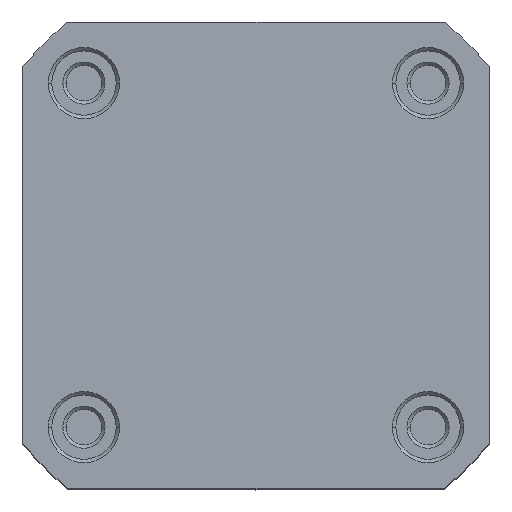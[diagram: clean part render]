
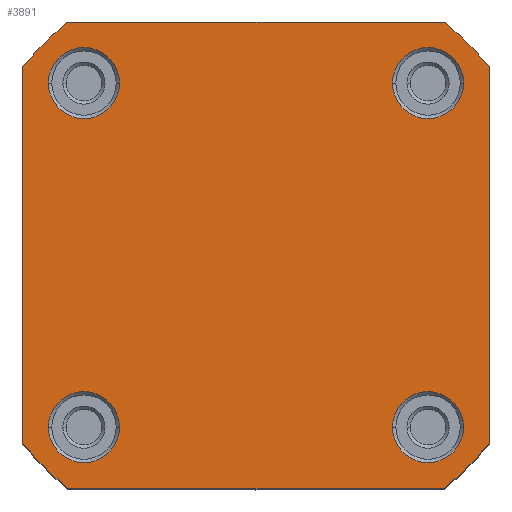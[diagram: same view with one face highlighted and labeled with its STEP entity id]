
A CAD part, top view. The second image highlights one B-rep face of the part: STEP entity #3891.
In plain terms, the highlighted planar face has unit normal (0, 0, 1).
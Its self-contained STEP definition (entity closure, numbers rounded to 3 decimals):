
#28 = DIRECTION ( 'NONE',  ( 0., 0., 1. ) ) ;
#47 = LINE ( 'NONE', #2766, #95 ) ;
#74 = DIRECTION ( 'NONE',  ( 1., 0., 0. ) ) ;
#93 = CIRCLE ( 'NONE', #2621, 27. ) ;
#95 = VECTOR ( 'NONE', #3435, 1000. ) ;
#187 = DIRECTION ( 'NONE',  ( 0., 0., -1. ) ) ;
#218 = CIRCLE ( 'NONE', #370, 3.2 ) ;
#221 = ORIENTED_EDGE ( 'NONE', *, *, #331, .T. ) ;
#287 = DIRECTION ( 'NONE',  ( 0., 0., -1. ) ) ;
#331 = EDGE_CURVE ( 'NONE', #1969, #4166, #47, .T. ) ;
#366 = VERTEX_POINT ( 'NONE', #2141 ) ;
#370 = AXIS2_PLACEMENT_3D ( 'NONE', #429, #462, #74 ) ;
#417 = FACE_BOUND ( 'NONE', #1628, .T. ) ;
#429 = CARTESIAN_POINT ( 'NONE',  ( 15.5, 15.5, 97.3 ) ) ;
#461 = CARTESIAN_POINT ( 'NONE',  ( 16.971, 21., 97.3 ) ) ;
#462 = DIRECTION ( 'NONE',  ( 0., 0., -1. ) ) ;
#493 = AXIS2_PLACEMENT_3D ( 'NONE', #1673, #287, #2647 ) ;
#518 = LINE ( 'NONE', #461, #3048 ) ;
#524 = FACE_OUTER_BOUND ( 'NONE', #3098, .T. ) ;
#561 = VERTEX_POINT ( 'NONE', #1376 ) ;
#592 = CARTESIAN_POINT ( 'NONE',  ( 12.3, -15.5, 97.3 ) ) ;
#602 = CIRCLE ( 'NONE', #2726, 27. ) ;
#610 = AXIS2_PLACEMENT_3D ( 'NONE', #1875, #3504, #3179 ) ;
#613 = EDGE_CURVE ( 'NONE', #4167, #1510, #1006, .T. ) ;
#648 = CARTESIAN_POINT ( 'NONE',  ( -12.3, 15.5, 97.3 ) ) ;
#675 = DIRECTION ( 'NONE',  ( 0., 0., -1. ) ) ;
#702 = CARTESIAN_POINT ( 'NONE',  ( 12.3, 15.5, 97.3 ) ) ;
#704 = CIRCLE ( 'NONE', #3185, 3.2 ) ;
#719 = EDGE_CURVE ( 'NONE', #3539, #4167, #3249, .T. ) ;
#743 = CARTESIAN_POINT ( 'NONE',  ( 0., 0., 97.3 ) ) ;
#814 = CARTESIAN_POINT ( 'NONE',  ( -15.5, 15.5, 97.3 ) ) ;
#831 = DIRECTION ( 'NONE',  ( 1., 0., 0. ) ) ;
#900 = CARTESIAN_POINT ( 'NONE',  ( 18.7, 15.5, 97.3 ) ) ;
#965 = CIRCLE ( 'NONE', #1878, 3.2 ) ;
#1006 = CIRCLE ( 'NONE', #3169, 27. ) ;
#1026 = ORIENTED_EDGE ( 'NONE', *, *, #1306, .T. ) ;
#1029 = DIRECTION ( 'NONE',  ( 1., 0., 0. ) ) ;
#1090 = VERTEX_POINT ( 'NONE', #2862 ) ;
#1181 = VERTEX_POINT ( 'NONE', #2938 ) ;
#1306 = EDGE_CURVE ( 'NONE', #561, #2165, #704, .T. ) ;
#1370 = CARTESIAN_POINT ( 'NONE',  ( 15.5, -15.5, 97.3 ) ) ;
#1376 = CARTESIAN_POINT ( 'NONE',  ( -18.7, 15.5, 97.3 ) ) ;
#1414 = DIRECTION ( 'NONE',  ( 1., 0., 0. ) ) ;
#1460 = CIRCLE ( 'NONE', #3402, 27. ) ;
#1510 = VERTEX_POINT ( 'NONE', #2795 ) ;
#1518 = ORIENTED_EDGE ( 'NONE', *, *, #3646, .T. ) ;
#1597 = AXIS2_PLACEMENT_3D ( 'NONE', #1370, #2675, #4063 ) ;
#1628 = EDGE_LOOP ( 'NONE', ( #1814, #3180 ) ) ;
#1635 = CARTESIAN_POINT ( 'NONE',  ( 0., 0., 97.3 ) ) ;
#1650 = VECTOR ( 'NONE', #2327, 1000. ) ;
#1673 = CARTESIAN_POINT ( 'NONE',  ( 15.5, 15.5, 97.3 ) ) ;
#1716 = DIRECTION ( 'NONE',  ( 1., 0., 0. ) ) ;
#1805 = ORIENTED_EDGE ( 'NONE', *, *, #613, .T. ) ;
#1814 = ORIENTED_EDGE ( 'NONE', *, *, #1909, .T. ) ;
#1827 = EDGE_CURVE ( 'NONE', #3269, #2326, #3569, .T. ) ;
#1862 = DIRECTION ( 'NONE',  ( 1., 0., 0. ) ) ;
#1864 = CIRCLE ( 'NONE', #1597, 3.2 ) ;
#1875 = CARTESIAN_POINT ( 'NONE',  ( 15.5, -15.5, 97.3 ) ) ;
#1878 = AXIS2_PLACEMENT_3D ( 'NONE', #3845, #187, #1862 ) ;
#1909 = EDGE_CURVE ( 'NONE', #3679, #1090, #965, .T. ) ;
#1964 = ORIENTED_EDGE ( 'NONE', *, *, #1827, .T. ) ;
#1969 = VERTEX_POINT ( 'NONE', #2264 ) ;
#2017 = CARTESIAN_POINT ( 'NONE',  ( 0., 0., 97.3 ) ) ;
#2061 = DIRECTION ( 'NONE',  ( 0., 0., 1. ) ) ;
#2139 = CARTESIAN_POINT ( 'NONE',  ( -12.3, -15.5, 97.3 ) ) ;
#2141 = CARTESIAN_POINT ( 'NONE',  ( 16.971, -21., 97.3 ) ) ;
#2165 = VERTEX_POINT ( 'NONE', #648 ) ;
#2183 = VERTEX_POINT ( 'NONE', #3391 ) ;
#2197 = CIRCLE ( 'NONE', #493, 3.2 ) ;
#2206 = EDGE_CURVE ( 'NONE', #1181, #366, #2669, .T. ) ;
#2222 = EDGE_LOOP ( 'NONE', ( #4174, #1964 ) ) ;
#2264 = CARTESIAN_POINT ( 'NONE',  ( -21., 16.971, 97.3 ) ) ;
#2321 = DIRECTION ( 'NONE',  ( 1., 0., 0. ) ) ;
#2326 = VERTEX_POINT ( 'NONE', #3087 ) ;
#2327 = DIRECTION ( 'NONE',  ( 0., 1., 0. ) ) ;
#2369 = CARTESIAN_POINT ( 'NONE',  ( 0., 0., 97.3 ) ) ;
#2380 = DIRECTION ( 'NONE',  ( 1., 0., 0. ) ) ;
#2443 = EDGE_LOOP ( 'NONE', ( #1518, #1026 ) ) ;
#2517 = EDGE_CURVE ( 'NONE', #3081, #3396, #2197, .T. ) ;
#2530 = FACE_BOUND ( 'NONE', #2443, .T. ) ;
#2571 = EDGE_CURVE ( 'NONE', #366, #3539, #93, .T. ) ;
#2592 = CIRCLE ( 'NONE', #3511, 3.2 ) ;
#2621 = AXIS2_PLACEMENT_3D ( 'NONE', #1635, #3960, #2321 ) ;
#2640 = FACE_BOUND ( 'NONE', #2222, .T. ) ;
#2645 = CARTESIAN_POINT ( 'NONE',  ( -15.5, 15.5, 97.3 ) ) ;
#2647 = DIRECTION ( 'NONE',  ( 1., 0., 0. ) ) ;
#2669 = LINE ( 'NONE', #3060, #2875 ) ;
#2675 = DIRECTION ( 'NONE',  ( 0., 0., -1. ) ) ;
#2683 = ORIENTED_EDGE ( 'NONE', *, *, #3333, .T. ) ;
#2690 = CARTESIAN_POINT ( 'NONE',  ( 0., 0., 97.3 ) ) ;
#2720 = PLANE ( 'NONE',  #3597 ) ;
#2726 = AXIS2_PLACEMENT_3D ( 'NONE', #2017, #28, #1029 ) ;
#2766 = CARTESIAN_POINT ( 'NONE',  ( -21., 16.971, 97.3 ) ) ;
#2795 = CARTESIAN_POINT ( 'NONE',  ( 16.971, 21., 97.3 ) ) ;
#2846 = CARTESIAN_POINT ( 'NONE',  ( -21., -16.971, 97.3 ) ) ;
#2862 = CARTESIAN_POINT ( 'NONE',  ( -18.7, -15.5, 97.3 ) ) ;
#2875 = VECTOR ( 'NONE', #2380, 1000. ) ;
#2901 = ORIENTED_EDGE ( 'NONE', *, *, #2571, .T. ) ;
#2938 = CARTESIAN_POINT ( 'NONE',  ( -16.971, -21., 97.3 ) ) ;
#2949 = ORIENTED_EDGE ( 'NONE', *, *, #2206, .T. ) ;
#2991 = DIRECTION ( 'NONE',  ( 1., 0., 0. ) ) ;
#3048 = VECTOR ( 'NONE', #3131, 1000. ) ;
#3057 = CARTESIAN_POINT ( 'NONE',  ( -15.5, -15.5, 97.3 ) ) ;
#3060 = CARTESIAN_POINT ( 'NONE',  ( -16.971, -21., 97.3 ) ) ;
#3081 = VERTEX_POINT ( 'NONE', #900 ) ;
#3087 = CARTESIAN_POINT ( 'NONE',  ( 18.7, -15.5, 97.3 ) ) ;
#3093 = AXIS2_PLACEMENT_3D ( 'NONE', #814, #3133, #831 ) ;
#3098 = EDGE_LOOP ( 'NONE', ( #4212, #221, #2683, #2949, #2901, #3557, #1805, #3737 ) ) ;
#3125 = CARTESIAN_POINT ( 'NONE',  ( 21., -16.971, 97.3 ) ) ;
#3131 = DIRECTION ( 'NONE',  ( -1., 0., 0. ) ) ;
#3133 = DIRECTION ( 'NONE',  ( 0., 0., -1. ) ) ;
#3169 = AXIS2_PLACEMENT_3D ( 'NONE', #2369, #3754, #3382 ) ;
#3179 = DIRECTION ( 'NONE',  ( 1., 0., 0. ) ) ;
#3180 = ORIENTED_EDGE ( 'NONE', *, *, #3899, .T. ) ;
#3185 = AXIS2_PLACEMENT_3D ( 'NONE', #2645, #675, #2991 ) ;
#3249 = LINE ( 'NONE', #3125, #1650 ) ;
#3269 = VERTEX_POINT ( 'NONE', #592 ) ;
#3333 = EDGE_CURVE ( 'NONE', #4166, #1181, #602, .T. ) ;
#3357 = DIRECTION ( 'NONE',  ( 1., 0., 0. ) ) ;
#3378 = DIRECTION ( 'NONE',  ( 0., 0., 1. ) ) ;
#3382 = DIRECTION ( 'NONE',  ( 1., 0., 0. ) ) ;
#3391 = CARTESIAN_POINT ( 'NONE',  ( -16.971, 21., 97.3 ) ) ;
#3396 = VERTEX_POINT ( 'NONE', #702 ) ;
#3402 = AXIS2_PLACEMENT_3D ( 'NONE', #2690, #3378, #1716 ) ;
#3435 = DIRECTION ( 'NONE',  ( 0., -1., 0. ) ) ;
#3447 = EDGE_CURVE ( 'NONE', #2183, #1969, #1460, .T. ) ;
#3501 = EDGE_CURVE ( 'NONE', #3396, #3081, #218, .T. ) ;
#3504 = DIRECTION ( 'NONE',  ( 0., 0., -1. ) ) ;
#3511 = AXIS2_PLACEMENT_3D ( 'NONE', #3057, #3748, #3357 ) ;
#3539 = VERTEX_POINT ( 'NONE', #3714 ) ;
#3557 = ORIENTED_EDGE ( 'NONE', *, *, #719, .T. ) ;
#3569 = CIRCLE ( 'NONE', #610, 3.2 ) ;
#3597 = AXIS2_PLACEMENT_3D ( 'NONE', #743, #2061, #1414 ) ;
#3638 = FACE_BOUND ( 'NONE', #3911, .T. ) ;
#3646 = EDGE_CURVE ( 'NONE', #2165, #561, #3685, .T. ) ;
#3679 = VERTEX_POINT ( 'NONE', #2139 ) ;
#3685 = CIRCLE ( 'NONE', #3093, 3.2 ) ;
#3714 = CARTESIAN_POINT ( 'NONE',  ( 21., -16.971, 97.3 ) ) ;
#3737 = ORIENTED_EDGE ( 'NONE', *, *, #4010, .T. ) ;
#3748 = DIRECTION ( 'NONE',  ( 0., 0., -1. ) ) ;
#3754 = DIRECTION ( 'NONE',  ( 0., 0., 1. ) ) ;
#3845 = CARTESIAN_POINT ( 'NONE',  ( -15.5, -15.5, 97.3 ) ) ;
#3881 = CARTESIAN_POINT ( 'NONE',  ( 21., 16.971, 97.3 ) ) ;
#3891 = ADVANCED_FACE ( 'NONE', ( #2640, #417, #2530, #3638, #524 ), #2720, .T. ) ;
#3899 = EDGE_CURVE ( 'NONE', #1090, #3679, #2592, .T. ) ;
#3911 = EDGE_LOOP ( 'NONE', ( #4059, #4255 ) ) ;
#3919 = EDGE_CURVE ( 'NONE', #2326, #3269, #1864, .T. ) ;
#3960 = DIRECTION ( 'NONE',  ( 0., 0., 1. ) ) ;
#4010 = EDGE_CURVE ( 'NONE', #1510, #2183, #518, .T. ) ;
#4059 = ORIENTED_EDGE ( 'NONE', *, *, #2517, .T. ) ;
#4063 = DIRECTION ( 'NONE',  ( 1., 0., 0. ) ) ;
#4166 = VERTEX_POINT ( 'NONE', #2846 ) ;
#4167 = VERTEX_POINT ( 'NONE', #3881 ) ;
#4174 = ORIENTED_EDGE ( 'NONE', *, *, #3919, .T. ) ;
#4212 = ORIENTED_EDGE ( 'NONE', *, *, #3447, .T. ) ;
#4255 = ORIENTED_EDGE ( 'NONE', *, *, #3501, .T. ) ;
